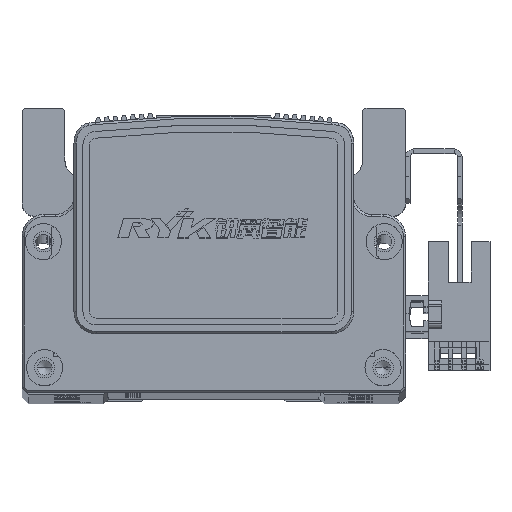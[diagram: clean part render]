
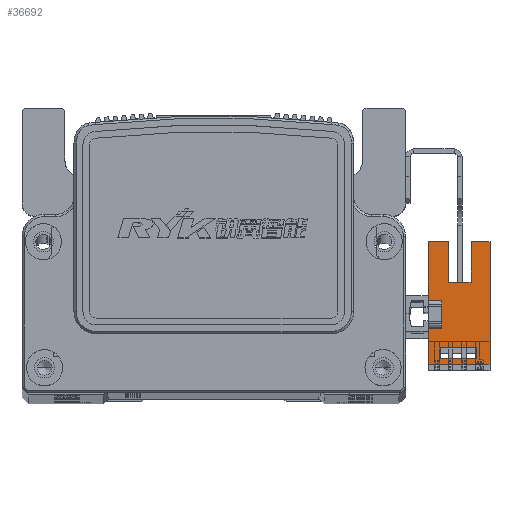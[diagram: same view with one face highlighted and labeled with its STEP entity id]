
A CAD part, top view. The second image highlights one B-rep face of the part: STEP entity #36692.
In plain terms, the highlighted planar face has unit normal (0, 0, 1) as drawn and (1, 0, 0) by its records, which use the part's own axes.
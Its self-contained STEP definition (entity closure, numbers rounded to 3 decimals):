
#8136 = VECTOR ( 'NONE', #24107, 1000. ) ;
#8156 = VECTOR ( 'NONE', #24086, 1000. ) ;
#8180 = LINE ( 'NONE', #24113, #8136 ) ;
#8194 = LINE ( 'NONE', #24097, #8196 ) ;
#8196 = VECTOR ( 'NONE', #24089, 1000. ) ;
#8246 = LINE ( 'NONE', #24092, #8156 ) ;
#8294 = LINE ( 'NONE', #10711, #8316 ) ;
#8316 = VECTOR ( 'NONE', #10743, 1000. ) ;
#8320 = VECTOR ( 'NONE', #10801, 1000. ) ;
#8324 = VECTOR ( 'NONE', #10829, 1000. ) ;
#8326 = LINE ( 'NONE', #10875, #8324 ) ;
#8330 = LINE ( 'NONE', #10870, #8444 ) ;
#8342 = VECTOR ( 'NONE', #23620, 1000. ) ;
#8351 = LINE ( 'NONE', #10718, #8320 ) ;
#8367 = LINE ( 'NONE', #22952, #8342 ) ;
#8444 = VECTOR ( 'NONE', #10853, 1000. ) ;
#8454 = VECTOR ( 'NONE', #10848, 1000. ) ;
#8466 = LINE ( 'NONE', #10884, #8454 ) ;
#10711 = CARTESIAN_POINT ( 'NONE',  ( 3.2, -3.1, 3. ) ) ;
#10718 = CARTESIAN_POINT ( 'NONE',  ( 3.2, -7.33, -10.7 ) ) ;
#10743 = DIRECTION ( 'NONE',  ( 0., 0., -1. ) ) ;
#10801 = DIRECTION ( 'NONE',  ( 0., 0., 1. ) ) ;
#10829 = DIRECTION ( 'NONE',  ( 0., 1., 0. ) ) ;
#10848 = DIRECTION ( 'NONE',  ( 0., 0., 1. ) ) ;
#10853 = DIRECTION ( 'NONE',  ( 0., 0., 1. ) ) ;
#10870 = CARTESIAN_POINT ( 'NONE',  ( 3.2, 3.1, 3. ) ) ;
#10875 = CARTESIAN_POINT ( 'NONE',  ( 3.2, 25.1, -1.5 ) ) ;
#10884 = CARTESIAN_POINT ( 'NONE',  ( 3.2, 7.1, -6.5 ) ) ;
#14870 = CARTESIAN_POINT ( 'NONE',  ( 3.2, -3.1, 3. ) ) ;
#14872 = CARTESIAN_POINT ( 'NONE',  ( 3.2, -11.1, 3. ) ) ;
#14911 = CARTESIAN_POINT ( 'NONE',  ( 3.2, 3.1, 0. ) ) ;
#14937 = CARTESIAN_POINT ( 'NONE',  ( 3.2, 16.1, -1.5 ) ) ;
#14947 = CARTESIAN_POINT ( 'NONE',  ( 3.2, 3.1, 3. ) ) ;
#14953 = CARTESIAN_POINT ( 'NONE',  ( 3.2, 16.1, -6.5 ) ) ;
#14955 = CARTESIAN_POINT ( 'NONE',  ( 3.2, -11.1, -10.7 ) ) ;
#14957 = CARTESIAN_POINT ( 'NONE',  ( 3.2, -9.83, 0.3 ) ) ;
#14964 = CARTESIAN_POINT ( 'NONE',  ( 3.2, -9.83, -7.7 ) ) ;
#14969 = CARTESIAN_POINT ( 'NONE',  ( 3.2, 7.1, -1.5 ) ) ;
#14980 = CARTESIAN_POINT ( 'NONE',  ( 3.2, 16.1, 3. ) ) ;
#14995 = CARTESIAN_POINT ( 'NONE',  ( 3.2, -7.33, 0.3 ) ) ;
#15018 = CARTESIAN_POINT ( 'NONE',  ( 3.2, 16.1, -10.7 ) ) ;
#15024 = CARTESIAN_POINT ( 'NONE',  ( 3.2, -7.33, -7.7 ) ) ;
#15026 = CARTESIAN_POINT ( 'NONE',  ( 3.2, -3.1, 0. ) ) ;
#15030 = CARTESIAN_POINT ( 'NONE',  ( 3.2, 7.1, -6.5 ) ) ;
#22952 = CARTESIAN_POINT ( 'NONE',  ( 3.2, 16.1, 0.3 ) ) ;
#23620 = DIRECTION ( 'NONE',  ( 0., -1., 0. ) ) ;
#23796 = CARTESIAN_POINT ( 'NONE',  ( 3.2, 16.1, 3. ) ) ;
#23797 = DIRECTION ( 'NONE',  ( 0., 1., 0. ) ) ;
#23814 = DIRECTION ( 'NONE',  ( 0., 0., 1. ) ) ;
#23824 = CARTESIAN_POINT ( 'NONE',  ( 3.2, 16.1, -10.7 ) ) ;
#23923 = CARTESIAN_POINT ( 'NONE',  ( 3.2, 16.1, 3. ) ) ;
#23932 = DIRECTION ( 'NONE',  ( 0., 1., 0. ) ) ;
#23950 = DIRECTION ( 'NONE',  ( 0., 0., -1. ) ) ;
#23961 = CARTESIAN_POINT ( 'NONE',  ( 3.2, 25.1, -6.5 ) ) ;
#23963 = CARTESIAN_POINT ( 'NONE',  ( 3.2, 16.1, -7.7 ) ) ;
#23964 = DIRECTION ( 'NONE',  ( 0., -1., 0. ) ) ;
#23981 = DIRECTION ( 'NONE',  ( 0., 1., 0. ) ) ;
#23984 = CARTESIAN_POINT ( 'NONE',  ( 3.2, -9.83, -10.7 ) ) ;
#24009 = DIRECTION ( 'NONE',  ( 0., 1., 0. ) ) ;
#24014 = CARTESIAN_POINT ( 'NONE',  ( 3.2, 16.1, -10.7 ) ) ;
#24086 = DIRECTION ( 'NONE',  ( 0., 0., 1. ) ) ;
#24089 = DIRECTION ( 'NONE',  ( 0., 0., 1. ) ) ;
#24092 = CARTESIAN_POINT ( 'NONE',  ( 3.2, 16.1, -10.7 ) ) ;
#24097 = CARTESIAN_POINT ( 'NONE',  ( 3.2, -11.1, 3. ) ) ;
#24107 = DIRECTION ( 'NONE',  ( 0., 1., 0. ) ) ;
#24113 = CARTESIAN_POINT ( 'NONE',  ( 3.2, 0., 0. ) ) ;
#35661 = ORIENTED_EDGE ( 'NONE', *, *, #55087, .F. ) ;
#35663 = ORIENTED_EDGE ( 'NONE', *, *, #55025, .F. ) ;
#35682 = ORIENTED_EDGE ( 'NONE', *, *, #55090, .F. ) ;
#35686 = ORIENTED_EDGE ( 'NONE', *, *, #55155, .F. ) ;
#35693 = ORIENTED_EDGE ( 'NONE', *, *, #55137, .T. ) ;
#35709 = ORIENTED_EDGE ( 'NONE', *, *, #55143, .F. ) ;
#35713 = ORIENTED_EDGE ( 'NONE', *, *, #55146, .F. ) ;
#35727 = ORIENTED_EDGE ( 'NONE', *, *, #55089, .T. ) ;
#35732 = ORIENTED_EDGE ( 'NONE', *, *, #55066, .F. ) ;
#35737 = ORIENTED_EDGE ( 'NONE', *, *, #55176, .F. ) ;
#35740 = ORIENTED_EDGE ( 'NONE', *, *, #55179, .T. ) ;
#35763 = ORIENTED_EDGE ( 'NONE', *, *, #55016, .T. ) ;
#35767 = ORIENTED_EDGE ( 'NONE', *, *, #55165, .F. ) ;
#35775 = ORIENTED_EDGE ( 'NONE', *, *, #55111, .T. ) ;
#35804 = ORIENTED_EDGE ( 'NONE', *, *, #55184, .F. ) ;
#35818 = ORIENTED_EDGE ( 'NONE', *, *, #55189, .T. ) ;
#36692 = ADVANCED_FACE ( 'NONE', ( #42891, #42886 ), #50948, .T. ) ;
#42886 = FACE_BOUND ( 'NONE', #52061, .T. ) ;
#42891 = FACE_OUTER_BOUND ( 'NONE', #52126, .T. ) ;
#43733 = AXIS2_PLACEMENT_3D ( 'NONE', #50942, #50952, #50913 ) ;
#48808 = VERTEX_POINT ( 'NONE', #14872 ) ;
#48823 = VERTEX_POINT ( 'NONE', #14870 ) ;
#48858 = VERTEX_POINT ( 'NONE', #14953 ) ;
#48867 = VERTEX_POINT ( 'NONE', #14937 ) ;
#48868 = VERTEX_POINT ( 'NONE', #14955 ) ;
#48871 = VERTEX_POINT ( 'NONE', #14969 ) ;
#48872 = VERTEX_POINT ( 'NONE', #14957 ) ;
#48880 = VERTEX_POINT ( 'NONE', #14947 ) ;
#48883 = VERTEX_POINT ( 'NONE', #14964 ) ;
#48888 = VERTEX_POINT ( 'NONE', #14911 ) ;
#48901 = VERTEX_POINT ( 'NONE', #15026 ) ;
#48913 = VERTEX_POINT ( 'NONE', #15018 ) ;
#48915 = VERTEX_POINT ( 'NONE', #15024 ) ;
#48924 = VERTEX_POINT ( 'NONE', #14980 ) ;
#48925 = VERTEX_POINT ( 'NONE', #14995 ) ;
#48928 = VERTEX_POINT ( 'NONE', #15030 ) ;
#50913 = DIRECTION ( 'NONE',  ( 0., 1., 0. ) ) ;
#50942 = CARTESIAN_POINT ( 'NONE',  ( 3.2, 16.1, -10.7 ) ) ;
#50948 = PLANE ( 'NONE',  #43733 ) ;
#50952 = DIRECTION ( 'NONE',  ( 1., 0., 0. ) ) ;
#52061 = EDGE_LOOP ( 'NONE', ( #35686, #35767, #35661, #35682 ) ) ;
#52126 = EDGE_LOOP ( 'NONE', ( #35727, #35818, #35740, #35693, #35663, #35804, #35709, #35737, #35732, #35713, #35775, #35763 ) ) ;
#55016 = EDGE_CURVE ( 'NONE', #48913, #48858, #70220, .T. ) ;
#55025 = EDGE_CURVE ( 'NONE', #48880, #48924, #70221, .T. ) ;
#55066 = EDGE_CURVE ( 'NONE', #48808, #48823, #68960, .T. ) ;
#55087 = EDGE_CURVE ( 'NONE', #48883, #48915, #68932, .T. ) ;
#55089 = EDGE_CURVE ( 'NONE', #48858, #48928, #69014, .T. ) ;
#55090 = EDGE_CURVE ( 'NONE', #48872, #48883, #68939, .T. ) ;
#55111 = EDGE_CURVE ( 'NONE', #48868, #48913, #70233, .T. ) ;
#55137 = EDGE_CURVE ( 'NONE', #48867, #48924, #8246, .T. ) ;
#55143 = EDGE_CURVE ( 'NONE', #48901, #48888, #8180, .T. ) ;
#55146 = EDGE_CURVE ( 'NONE', #48868, #48808, #8194, .T. ) ;
#55155 = EDGE_CURVE ( 'NONE', #48925, #48872, #8367, .T. ) ;
#55165 = EDGE_CURVE ( 'NONE', #48915, #48925, #8351, .T. ) ;
#55176 = EDGE_CURVE ( 'NONE', #48823, #48901, #8294, .T. ) ;
#55179 = EDGE_CURVE ( 'NONE', #48871, #48867, #8326, .T. ) ;
#55184 = EDGE_CURVE ( 'NONE', #48888, #48880, #8330, .T. ) ;
#55189 = EDGE_CURVE ( 'NONE', #48928, #48871, #8466, .T. ) ;
#68932 = LINE ( 'NONE', #23963, #68933 ) ;
#68933 = VECTOR ( 'NONE', #23981, 1000. ) ;
#68935 = VECTOR ( 'NONE', #23964, 1000. ) ;
#68939 = LINE ( 'NONE', #23984, #68941 ) ;
#68941 = VECTOR ( 'NONE', #23950, 1000. ) ;
#68960 = LINE ( 'NONE', #23923, #69018 ) ;
#69014 = LINE ( 'NONE', #23961, #68935 ) ;
#69018 = VECTOR ( 'NONE', #23932, 1000. ) ;
#70220 = LINE ( 'NONE', #23824, #70253 ) ;
#70221 = LINE ( 'NONE', #23796, #70257 ) ;
#70233 = LINE ( 'NONE', #24014, #70249 ) ;
#70249 = VECTOR ( 'NONE', #24009, 1000. ) ;
#70253 = VECTOR ( 'NONE', #23814, 1000. ) ;
#70257 = VECTOR ( 'NONE', #23797, 1000. ) ;
